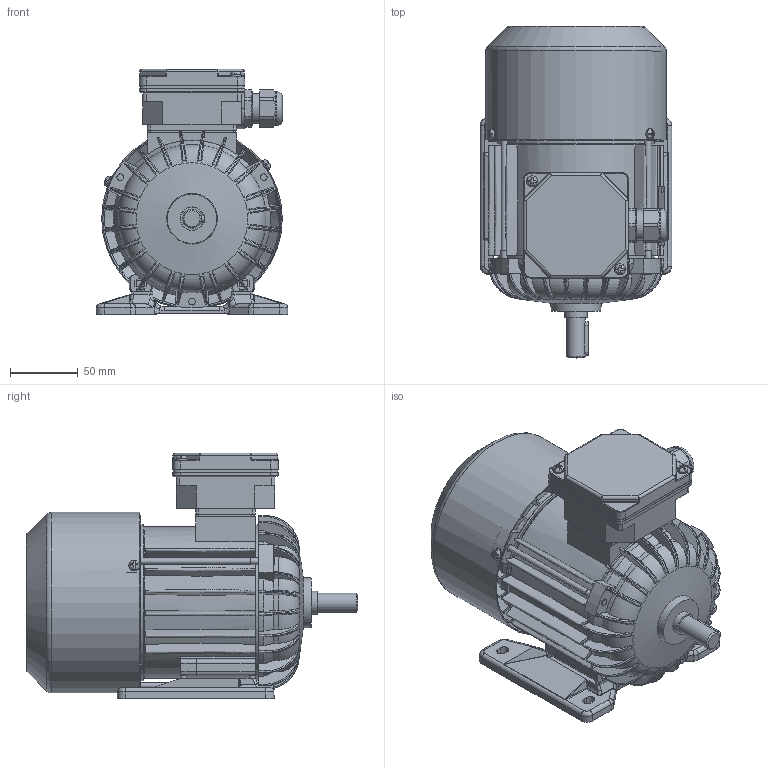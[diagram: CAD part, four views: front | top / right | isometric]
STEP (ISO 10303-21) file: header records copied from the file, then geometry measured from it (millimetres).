
FILE_DESCRIPTION( ( 'Unknown' ), '1' );
FILE_NAME( 'G:/Poczta Tk-1/STP/w.m.71/Sh71/Sh71-.B.stp', 'Unknown', ( 'K. Szlosek' ), ( 'BESEL S.A.' ), 'PSStep 17.0.49', 'Unknown', ' ' );
FILE_SCHEMA( ( 'AUTOMOTIVE_DESIGN { 1 0 10303 214 1 1 1 1 }' ) );
Length unit declared in the file: millimetre
Products named in the file (29): Assem1; K4-2820 Uszczelka nr 2 Sh71,80; K2-1933 Tarcza łożyskowa N S(E,M)h71-; K3-6469 Tarcza łożyskowa P S(E,M)h71-B,C; Wpust A5x5x25; Wkręt samogwintujący M4x8; K1-1194 Kadłub z zamkami Sh71-.B; K3-2975 Osłona przewietrznika Sh71-.B,C; K3-3984 Przewietrznik Sh71; K2-0860 Pokrywka skrzynki zaciskowej; K4-2320 Uszczelka nr 1 Sh71,80; K3-4502 wał standard Sh71-B; K1-0448 Łapa Sh71-.. ; Nitokołek A 2x6; Dławnica M20x1,5; Łożysko 6203; Śruba ściągająca E_M5x110; Tabliczka znamionowa 32x44; Wkręt samogwintujący M4x16; K2-0859 Podstawa skrzynki 6-cio zaciskowej
Assembly tree (44 placements, depth 2):
  Assem1
    K4-2820 Uszczelka nr 2 Sh71,80
    K2-1933 Tarcza łożyskowa N S(E,M)h71-
    K3-6469 Tarcza łożyskowa P S(E,M)h71-B,C
    Wpust A5x5x25
    Wkręt samogwintujący M4x8  x3
    K1-1194 Kadłub z zamkami Sh71-.B
    K3-2975 Osłona przewietrznika Sh71-.B,C
    K3-3984 Przewietrznik Sh71
    K2-0860 Pokrywka skrzynki zaciskowej
    K4-2320 Uszczelka nr 1 Sh71,80
    K3-4502 wał standard Sh71-B
    K1-0448 Łapa Sh71-.. 
    Nitokołek A 2x6  x2
    Dławnica M20x1,5
    Łożysko 6203  x2
    Łożysko 6203  x2
    Łożysko 6203  x2
    Łożysko 6203  x2
    Łożysko 6203  x2
    Łożysko 6203  x2
    Łożysko 6203  x2
    Łożysko 6203  x2
    Łożysko 6203  x2
    Łożysko 6203  x2
    Śruba ściągająca E_M5x110  x3
    Tabliczka znamionowa 32x44
    Wkręt samogwintujący M4x16  x2
    K2-0859 Podstawa skrzynki 6-cio zaciskowej
Bounding box: 141.93 x 245.5 x 181.5 mm (x, y, z)
Volume: 643433 mm3; surface area: 439328.3 mm2
Topology: 44 solids, 60 shells, 3039 faces, 8207 edges, 5187 vertices
Faces by surface type: plane 1104, cylinder 803, bspline 614, torus 276, cone 194, sphere 48
Full cylindrical faces by diameter (mm): 2 x2, 2.4 x2, 3.7 x7, 3.8 x4, 4 x5, 4.2 x3, 4.5 x1, 4.6 x3, 4.8 x4, 5 x7, 5.5 x3, 5.8 x4, 7 x1, 8 x9, 14 x1, 15.9 x1, 16.1 x1, 16.5 x1, 17 x4, 17.4 x2, 18.376 x1, 18.38 x1, 20 x1, 22 x2, 22.3 x1, 22.5 x1, 23 x1, 23.1 x1, 24.498 x4, 25 x1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
Entity records: 204115 total; most frequent: CARTESIAN_POINT 113903, ORIENTED_EDGE 14904, DIRECTION 12523, EDGE_CURVE 7452, VERTEX_POINT 4859, AXIS2_PLACEMENT_3D 4836, EDGE_LOOP 3264, FACE_OUTER_BOUND 2970
